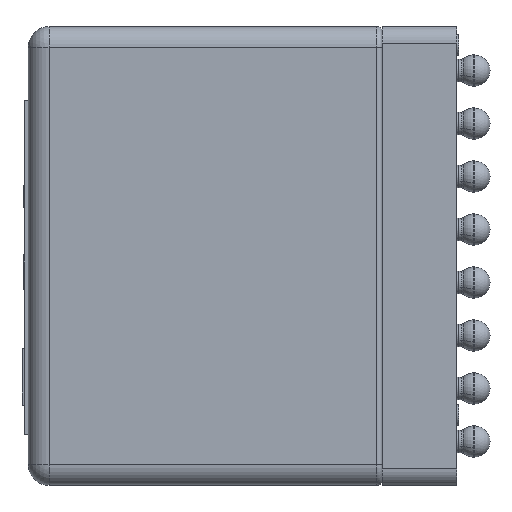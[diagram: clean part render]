
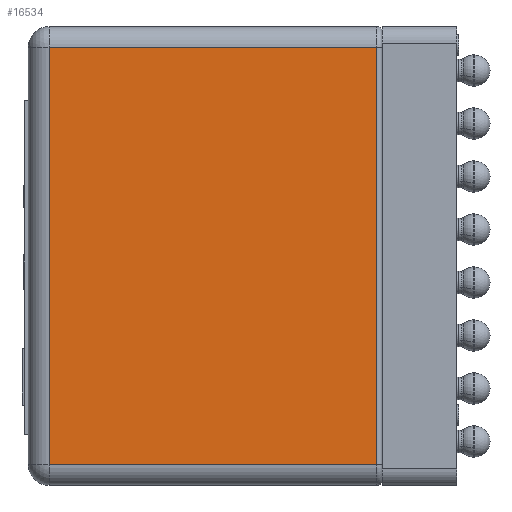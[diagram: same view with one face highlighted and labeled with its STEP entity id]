
A CAD part, left-side view. The second image highlights one B-rep face of the part: STEP entity #16534.
In plain terms, the highlighted planar face has unit normal (-1, 0, 0).
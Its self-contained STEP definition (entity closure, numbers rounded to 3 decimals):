
#397 = CARTESIAN_POINT ( 'NONE',  ( -4., 0.5, 0. ) ) ;
#889 = ORIENTED_EDGE ( 'NONE', *, *, #27611, .T. ) ;
#1024 = DIRECTION ( 'NONE',  ( 0., 0., -1. ) ) ;
#2996 = DIRECTION ( 'NONE',  ( -1., 0., 0. ) ) ;
#3255 = CARTESIAN_POINT ( 'NONE',  ( -4., 8.355, -0.5 ) ) ;
#4234 = LINE ( 'NONE', #41133, #11904 ) ;
#5062 = LINE ( 'NONE', #27296, #14284 ) ;
#5926 = ORIENTED_EDGE ( 'NONE', *, *, #28928, .T. ) ;
#6511 = ORIENTED_EDGE ( 'NONE', *, *, #9797, .T. ) ;
#6811 = PLANE ( 'NONE',  #18125 ) ;
#7475 = DIRECTION ( 'NONE',  ( 0., 0., 1. ) ) ;
#9797 = EDGE_CURVE ( 'NONE', #22414, #41248, #30698, .T. ) ;
#11690 = FACE_OUTER_BOUND ( 'NONE', #14230, .T. ) ;
#11904 = VECTOR ( 'NONE', #21545, 1000. ) ;
#14230 = EDGE_LOOP ( 'NONE', ( #5926, #889, #34399, #6511 ) ) ;
#14284 = VECTOR ( 'NONE', #1024, 1000. ) ;
#16534 = ADVANCED_FACE ( 'NONE', ( #11690 ), #6811, .T. ) ;
#16742 = CARTESIAN_POINT ( 'NONE',  ( -4., 0.5, -10.5 ) ) ;
#18125 = AXIS2_PLACEMENT_3D ( 'NONE', #29566, #2996, #7475 ) ;
#20679 = CARTESIAN_POINT ( 'NONE',  ( -4., 0.5, -0.5 ) ) ;
#21545 = DIRECTION ( 'NONE',  ( 0., -1., 0. ) ) ;
#22414 = VERTEX_POINT ( 'NONE', #16742 ) ;
#22466 = VERTEX_POINT ( 'NONE', #23966 ) ;
#23966 = CARTESIAN_POINT ( 'NONE',  ( -4., 8.355, -10.5 ) ) ;
#26224 = VECTOR ( 'NONE', #26426, 1000. ) ;
#26426 = DIRECTION ( 'NONE',  ( 0., 0., 1. ) ) ;
#27244 = LINE ( 'NONE', #33298, #29258 ) ;
#27296 = CARTESIAN_POINT ( 'NONE',  ( -4., 8.355, 0. ) ) ;
#27611 = EDGE_CURVE ( 'NONE', #33883, #22466, #5062, .T. ) ;
#28928 = EDGE_CURVE ( 'NONE', #41248, #33883, #27244, .T. ) ;
#29258 = VECTOR ( 'NONE', #33171, 1000. ) ;
#29566 = CARTESIAN_POINT ( 'NONE',  ( -4., 0., 0. ) ) ;
#30199 = EDGE_CURVE ( 'NONE', #22466, #22414, #4234, .T. ) ;
#30698 = LINE ( 'NONE', #397, #26224 ) ;
#33171 = DIRECTION ( 'NONE',  ( 0., 1., 0. ) ) ;
#33298 = CARTESIAN_POINT ( 'NONE',  ( -4., 8.48, -0.5 ) ) ;
#33883 = VERTEX_POINT ( 'NONE', #3255 ) ;
#34399 = ORIENTED_EDGE ( 'NONE', *, *, #30199, .T. ) ;
#41133 = CARTESIAN_POINT ( 'NONE',  ( -4., 0., -10.5 ) ) ;
#41248 = VERTEX_POINT ( 'NONE', #20679 ) ;
